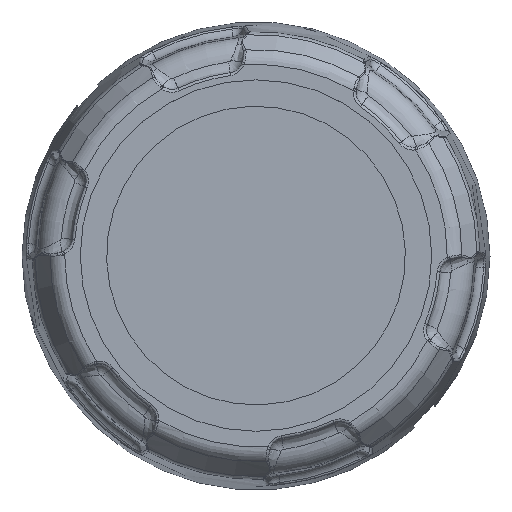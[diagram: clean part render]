
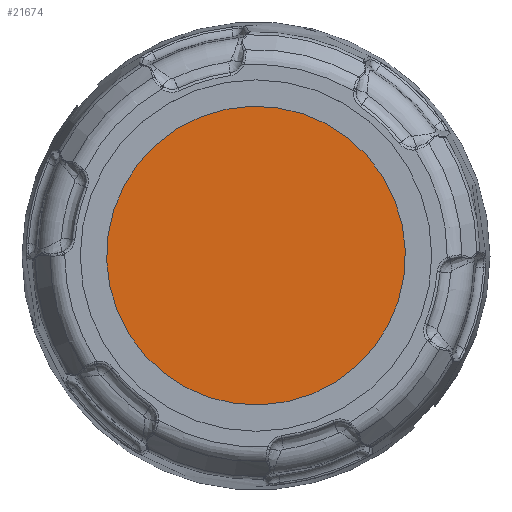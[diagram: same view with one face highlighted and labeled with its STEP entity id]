
A CAD part, top view. The second image highlights one B-rep face of the part: STEP entity #21674.
In plain terms, the highlighted planar face has unit normal (0, 0, 1).
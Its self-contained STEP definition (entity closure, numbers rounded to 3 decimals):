
#8119=CARTESIAN_POINT('',(0.,0.,38.625));
#8120=DIRECTION('',(0.,0.,1.));
#8121=DIRECTION('',(-0.999,-0.035,0.));
#8122=AXIS2_PLACEMENT_3D('',#8119,#8120,#8121);
#8127=CARTESIAN_POINT('',(0.,0.,38.625));
#8128=DIRECTION('',(0.,0.,1.));
#8129=DIRECTION('',(0.999,0.035,0.));
#8130=AXIS2_PLACEMENT_3D('',#8127,#8128,#8129);
#10429=CARTESIAN_POINT('',(-25.484,-0.89,38.625));
#10430=CARTESIAN_POINT('',(25.484,0.89,38.625));
#10431=VERTEX_POINT('',#10429);
#10432=VERTEX_POINT('',#10430);
#21665=CARTESIAN_POINT('',(0.,0.,38.625));
#21666=DIRECTION('',(0.,0.,1.));
#21667=DIRECTION('',(-0.035,0.999,0.));
#21668=AXIS2_PLACEMENT_3D('',#21665,#21666,#21667);
#21669=PLANE('',#21668);
#21670=ORIENTED_EDGE('',*,*,#21645,.F.);
#21671=ORIENTED_EDGE('',*,*,#21659,.F.);
#21672=EDGE_LOOP('',(#21670,#21671));
#21673=FACE_OUTER_BOUND('',#21672,.F.);
#8123=CIRCLE('',#8122,25.5);
#8131=CIRCLE('',#8130,25.5);
#21645=EDGE_CURVE('',#10431,#10432,#8123,.T.);
#21659=EDGE_CURVE('',#10432,#10431,#8131,.T.);
#21674=ADVANCED_FACE('',(#21673),#21669,.T.);
